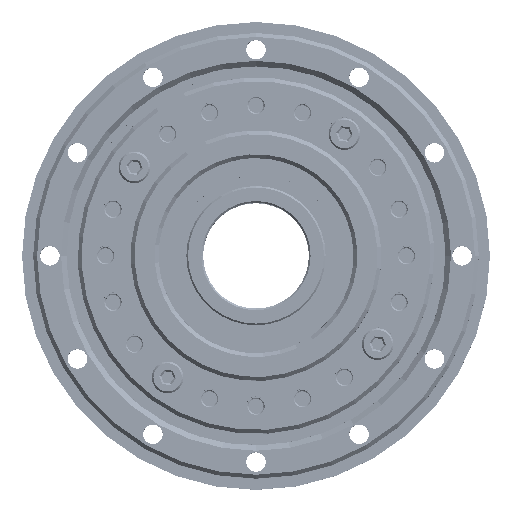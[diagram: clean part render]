
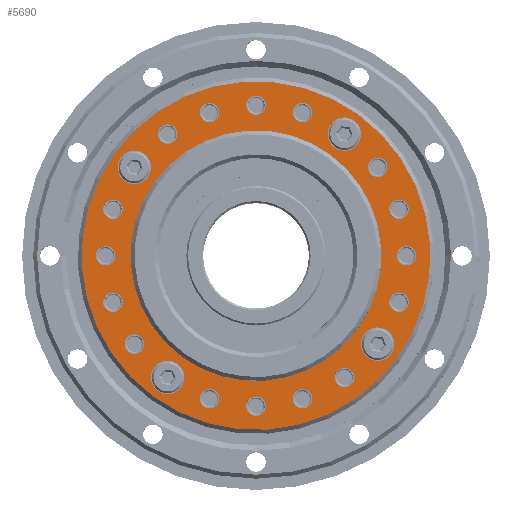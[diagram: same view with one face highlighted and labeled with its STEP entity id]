
A CAD part, top view. The second image highlights one B-rep face of the part: STEP entity #5690.
In plain terms, the highlighted planar face has unit normal (0, 0, 1).
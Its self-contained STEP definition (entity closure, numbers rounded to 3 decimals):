
#5690=ADVANCED_FACE('',(#7057,#7058,#7059,#7060,#7061,#7062,#7063,#7064,
#7065,#7066,#7067,#7068,#7069,#7070,#7071,#7072,#7073,#7074,#7075,#7076,
#7077,#7078),#6112,.T.);
#6112=PLANE('',#16878);
#7057=FACE_BOUND('',#8370,.T.);
#7058=FACE_BOUND('',#8371,.T.);
#7059=FACE_BOUND('',#8372,.T.);
#7060=FACE_BOUND('',#8373,.T.);
#7061=FACE_BOUND('',#8374,.T.);
#7062=FACE_BOUND('',#8375,.T.);
#7063=FACE_BOUND('',#8376,.T.);
#7064=FACE_BOUND('',#8377,.T.);
#7065=FACE_BOUND('',#8378,.T.);
#7066=FACE_BOUND('',#8379,.T.);
#7067=FACE_BOUND('',#8380,.T.);
#7068=FACE_BOUND('',#8381,.T.);
#7069=FACE_BOUND('',#8382,.T.);
#7070=FACE_BOUND('',#8383,.T.);
#7071=FACE_BOUND('',#8384,.T.);
#7072=FACE_BOUND('',#8385,.T.);
#7073=FACE_BOUND('',#8386,.T.);
#7074=FACE_BOUND('',#8387,.T.);
#7075=FACE_BOUND('',#8388,.T.);
#7076=FACE_BOUND('',#8389,.T.);
#7077=FACE_BOUND('',#8390,.T.);
#7078=FACE_BOUND('',#8391,.T.);
#8370=EDGE_LOOP('',(#11285));
#8371=EDGE_LOOP('',(#11286));
#8372=EDGE_LOOP('',(#11287));
#8373=EDGE_LOOP('',(#11288));
#8374=EDGE_LOOP('',(#11289));
#8375=EDGE_LOOP('',(#11290));
#8376=EDGE_LOOP('',(#11291));
#8377=EDGE_LOOP('',(#11292));
#8378=EDGE_LOOP('',(#11293));
#8379=EDGE_LOOP('',(#11294));
#8380=EDGE_LOOP('',(#11295));
#8381=EDGE_LOOP('',(#11296));
#8382=EDGE_LOOP('',(#11297));
#8383=EDGE_LOOP('',(#11298));
#8384=EDGE_LOOP('',(#11299));
#8385=EDGE_LOOP('',(#11300));
#8386=EDGE_LOOP('',(#11301));
#8387=EDGE_LOOP('',(#11302));
#8388=EDGE_LOOP('',(#11303));
#8389=EDGE_LOOP('',(#11304));
#8390=EDGE_LOOP('',(#11305));
#8391=EDGE_LOOP('',(#11306));
#11285=ORIENTED_EDGE('',*,*,#14786,.F.);
#11286=ORIENTED_EDGE('',*,*,#14787,.F.);
#11287=ORIENTED_EDGE('',*,*,#14788,.F.);
#11288=ORIENTED_EDGE('',*,*,#14789,.F.);
#11289=ORIENTED_EDGE('',*,*,#14790,.F.);
#11290=ORIENTED_EDGE('',*,*,#14791,.F.);
#11291=ORIENTED_EDGE('',*,*,#14792,.F.);
#11292=ORIENTED_EDGE('',*,*,#14793,.F.);
#11293=ORIENTED_EDGE('',*,*,#14794,.F.);
#11294=ORIENTED_EDGE('',*,*,#14795,.F.);
#11295=ORIENTED_EDGE('',*,*,#14796,.F.);
#11296=ORIENTED_EDGE('',*,*,#14797,.F.);
#11297=ORIENTED_EDGE('',*,*,#14798,.F.);
#11298=ORIENTED_EDGE('',*,*,#14799,.F.);
#11299=ORIENTED_EDGE('',*,*,#14800,.F.);
#11300=ORIENTED_EDGE('',*,*,#14801,.F.);
#11301=ORIENTED_EDGE('',*,*,#14802,.F.);
#11302=ORIENTED_EDGE('',*,*,#14803,.F.);
#11303=ORIENTED_EDGE('',*,*,#14804,.F.);
#11304=ORIENTED_EDGE('',*,*,#14805,.F.);
#11305=ORIENTED_EDGE('',*,*,#14806,.T.);
#11306=ORIENTED_EDGE('',*,*,#14807,.F.);
#13174=VERTEX_POINT('',#113838);
#13175=VERTEX_POINT('',#113840);
#13176=VERTEX_POINT('',#113842);
#13177=VERTEX_POINT('',#113844);
#13178=VERTEX_POINT('',#113846);
#13179=VERTEX_POINT('',#113848);
#13180=VERTEX_POINT('',#113850);
#13181=VERTEX_POINT('',#113852);
#13182=VERTEX_POINT('',#113854);
#13183=VERTEX_POINT('',#113856);
#13184=VERTEX_POINT('',#113858);
#13185=VERTEX_POINT('',#113860);
#13186=VERTEX_POINT('',#113862);
#13187=VERTEX_POINT('',#113864);
#13188=VERTEX_POINT('',#113866);
#13189=VERTEX_POINT('',#113868);
#13190=VERTEX_POINT('',#113870);
#13191=VERTEX_POINT('',#113872);
#13192=VERTEX_POINT('',#113874);
#13193=VERTEX_POINT('',#113876);
#13194=VERTEX_POINT('',#113878);
#13195=VERTEX_POINT('',#113880);
#14786=EDGE_CURVE('',#13174,#13174,#15690,.T.);
#14787=EDGE_CURVE('',#13175,#13175,#15691,.T.);
#14788=EDGE_CURVE('',#13176,#13176,#15692,.T.);
#14789=EDGE_CURVE('',#13177,#13177,#15693,.T.);
#14790=EDGE_CURVE('',#13178,#13178,#15694,.T.);
#14791=EDGE_CURVE('',#13179,#13179,#15695,.T.);
#14792=EDGE_CURVE('',#13180,#13180,#15696,.T.);
#14793=EDGE_CURVE('',#13181,#13181,#15697,.T.);
#14794=EDGE_CURVE('',#13182,#13182,#15698,.T.);
#14795=EDGE_CURVE('',#13183,#13183,#15699,.T.);
#14796=EDGE_CURVE('',#13184,#13184,#15700,.T.);
#14797=EDGE_CURVE('',#13185,#13185,#15701,.T.);
#14798=EDGE_CURVE('',#13186,#13186,#15702,.T.);
#14799=EDGE_CURVE('',#13187,#13187,#15703,.T.);
#14800=EDGE_CURVE('',#13188,#13188,#15704,.T.);
#14801=EDGE_CURVE('',#13189,#13189,#15705,.T.);
#14802=EDGE_CURVE('',#13190,#13190,#15706,.T.);
#14803=EDGE_CURVE('',#13191,#13191,#15707,.T.);
#14804=EDGE_CURVE('',#13192,#13192,#15708,.T.);
#14805=EDGE_CURVE('',#13193,#13193,#15709,.T.);
#14806=EDGE_CURVE('',#13194,#13194,#15710,.T.);
#14807=EDGE_CURVE('',#13195,#13195,#15711,.T.);
#15690=CIRCLE('',#16856,3.);
#15691=CIRCLE('',#16857,3.);
#15692=CIRCLE('',#16858,3.);
#15693=CIRCLE('',#16859,3.);
#15694=CIRCLE('',#16860,1.75);
#15695=CIRCLE('',#16861,1.75);
#15696=CIRCLE('',#16862,1.75);
#15697=CIRCLE('',#16863,1.75);
#15698=CIRCLE('',#16864,1.75);
#15699=CIRCLE('',#16865,1.75);
#15700=CIRCLE('',#16866,1.75);
#15701=CIRCLE('',#16867,1.75);
#15702=CIRCLE('',#16868,1.75);
#15703=CIRCLE('',#16869,1.75);
#15704=CIRCLE('',#16870,1.75);
#15705=CIRCLE('',#16871,1.75);
#15706=CIRCLE('',#16872,1.75);
#15707=CIRCLE('',#16873,1.75);
#15708=CIRCLE('',#16874,1.75);
#15709=CIRCLE('',#16875,1.75);
#15710=CIRCLE('',#16876,31.3);
#15711=CIRCLE('',#16877,22.5);
#16856=AXIS2_PLACEMENT_3D('',#113837,#19676,#19677);
#16857=AXIS2_PLACEMENT_3D('',#113839,#19678,#19679);
#16858=AXIS2_PLACEMENT_3D('',#113841,#19680,#19681);
#16859=AXIS2_PLACEMENT_3D('',#113843,#19682,#19683);
#16860=AXIS2_PLACEMENT_3D('',#113845,#19684,#19685);
#16861=AXIS2_PLACEMENT_3D('',#113847,#19686,#19687);
#16862=AXIS2_PLACEMENT_3D('',#113849,#19688,#19689);
#16863=AXIS2_PLACEMENT_3D('',#113851,#19690,#19691);
#16864=AXIS2_PLACEMENT_3D('',#113853,#19692,#19693);
#16865=AXIS2_PLACEMENT_3D('',#113855,#19694,#19695);
#16866=AXIS2_PLACEMENT_3D('',#113857,#19696,#19697);
#16867=AXIS2_PLACEMENT_3D('',#113859,#19698,#19699);
#16868=AXIS2_PLACEMENT_3D('',#113861,#19700,#19701);
#16869=AXIS2_PLACEMENT_3D('',#113863,#19702,#19703);
#16870=AXIS2_PLACEMENT_3D('',#113865,#19704,#19705);
#16871=AXIS2_PLACEMENT_3D('',#113867,#19706,#19707);
#16872=AXIS2_PLACEMENT_3D('',#113869,#19708,#19709);
#16873=AXIS2_PLACEMENT_3D('',#113871,#19710,#19711);
#16874=AXIS2_PLACEMENT_3D('',#113873,#19712,#19713);
#16875=AXIS2_PLACEMENT_3D('',#113875,#19714,#19715);
#16876=AXIS2_PLACEMENT_3D('',#113877,#19716,#19717);
#16877=AXIS2_PLACEMENT_3D('',#113879,#19718,#19719);
#16878=AXIS2_PLACEMENT_3D('',#113881,#19720,#19721);
#19676=DIRECTION('',(0.,0.,1.));
#19677=DIRECTION('',(1.,0.,0.));
#19678=DIRECTION('',(0.,0.,1.));
#19679=DIRECTION('',(1.,0.,0.));
#19680=DIRECTION('',(0.,0.,1.));
#19681=DIRECTION('',(1.,0.,0.));
#19682=DIRECTION('',(0.,0.,1.));
#19683=DIRECTION('',(1.,0.,0.));
#19684=DIRECTION('',(0.,0.,1.));
#19685=DIRECTION('',(1.,0.,0.));
#19686=DIRECTION('',(0.,0.,1.));
#19687=DIRECTION('',(1.,0.,0.));
#19688=DIRECTION('',(0.,0.,1.));
#19689=DIRECTION('',(1.,0.,0.));
#19690=DIRECTION('',(0.,0.,1.));
#19691=DIRECTION('',(1.,0.,0.));
#19692=DIRECTION('',(0.,0.,1.));
#19693=DIRECTION('',(1.,0.,0.));
#19694=DIRECTION('',(0.,0.,1.));
#19695=DIRECTION('',(1.,0.,0.));
#19696=DIRECTION('',(0.,0.,1.));
#19697=DIRECTION('',(1.,0.,0.));
#19698=DIRECTION('',(0.,0.,1.));
#19699=DIRECTION('',(1.,0.,0.));
#19700=DIRECTION('',(0.,0.,1.));
#19701=DIRECTION('',(1.,0.,0.));
#19702=DIRECTION('',(0.,0.,1.));
#19703=DIRECTION('',(1.,0.,0.));
#19704=DIRECTION('',(0.,0.,1.));
#19705=DIRECTION('',(1.,0.,0.));
#19706=DIRECTION('',(0.,0.,1.));
#19707=DIRECTION('',(1.,0.,0.));
#19708=DIRECTION('',(0.,0.,1.));
#19709=DIRECTION('',(1.,0.,0.));
#19710=DIRECTION('',(0.,0.,1.));
#19711=DIRECTION('',(1.,0.,0.));
#19712=DIRECTION('',(0.,0.,1.));
#19713=DIRECTION('',(1.,0.,0.));
#19714=DIRECTION('',(0.,0.,1.));
#19715=DIRECTION('',(1.,0.,0.));
#19716=DIRECTION('',(0.,0.,1.));
#19717=DIRECTION('',(1.,0.,0.));
#19718=DIRECTION('',(0.,0.,1.));
#19719=DIRECTION('',(1.,0.,0.));
#19720=DIRECTION('',(0.,0.,1.));
#19721=DIRECTION('',(1.,0.,0.));
#113837=CARTESIAN_POINT('',(27.,0.,8.5));
#113838=CARTESIAN_POINT('',(30.,0.,8.5));
#113839=CARTESIAN_POINT('',(0.,-27.,8.5));
#113840=CARTESIAN_POINT('',(3.,-27.,8.5));
#113841=CARTESIAN_POINT('',(-27.,0.,8.5));
#113842=CARTESIAN_POINT('',(-24.,0.,8.5));
#113843=CARTESIAN_POINT('',(0.,27.,8.5));
#113844=CARTESIAN_POINT('',(3.,27.,8.5));
#113845=CARTESIAN_POINT('',(-25.679,8.343,8.5));
#113846=CARTESIAN_POINT('',(-23.929,8.343,8.5));
#113847=CARTESIAN_POINT('',(-21.843,15.87,8.5));
#113848=CARTESIAN_POINT('',(-20.093,15.87,8.5));
#113849=CARTESIAN_POINT('',(-15.87,21.843,8.5));
#113850=CARTESIAN_POINT('',(-14.12,21.843,8.5));
#113851=CARTESIAN_POINT('',(-8.343,25.679,8.5));
#113852=CARTESIAN_POINT('',(-6.593,25.679,8.5));
#113853=CARTESIAN_POINT('',(8.343,25.679,8.5));
#113854=CARTESIAN_POINT('',(10.093,25.679,8.5));
#113855=CARTESIAN_POINT('',(15.87,21.843,8.5));
#113856=CARTESIAN_POINT('',(17.62,21.843,8.5));
#113857=CARTESIAN_POINT('',(21.843,15.87,8.5));
#113858=CARTESIAN_POINT('',(23.593,15.87,8.5));
#113859=CARTESIAN_POINT('',(25.679,8.343,8.5));
#113860=CARTESIAN_POINT('',(27.429,8.343,8.5));
#113861=CARTESIAN_POINT('',(25.679,-8.343,8.5));
#113862=CARTESIAN_POINT('',(27.429,-8.343,8.5));
#113863=CARTESIAN_POINT('',(21.843,-15.87,8.5));
#113864=CARTESIAN_POINT('',(23.593,-15.87,8.5));
#113865=CARTESIAN_POINT('',(15.87,-21.843,8.5));
#113866=CARTESIAN_POINT('',(17.62,-21.843,8.5));
#113867=CARTESIAN_POINT('',(8.343,-25.679,8.5));
#113868=CARTESIAN_POINT('',(10.093,-25.679,8.5));
#113869=CARTESIAN_POINT('',(-8.343,-25.679,8.5));
#113870=CARTESIAN_POINT('',(-6.593,-25.679,8.5));
#113871=CARTESIAN_POINT('',(-15.87,-21.843,8.5));
#113872=CARTESIAN_POINT('',(-14.12,-21.843,8.5));
#113873=CARTESIAN_POINT('',(-21.843,-15.87,8.5));
#113874=CARTESIAN_POINT('',(-20.093,-15.87,8.5));
#113875=CARTESIAN_POINT('',(-25.679,-8.343,8.5));
#113876=CARTESIAN_POINT('',(-23.929,-8.343,8.5));
#113877=CARTESIAN_POINT('',(0.,0.,8.5));
#113878=CARTESIAN_POINT('',(31.3,0.,8.5));
#113879=CARTESIAN_POINT('',(0.,0.,8.5));
#113880=CARTESIAN_POINT('',(22.5,0.,8.5));
#113881=CARTESIAN_POINT('',(0.,0.,8.5));
